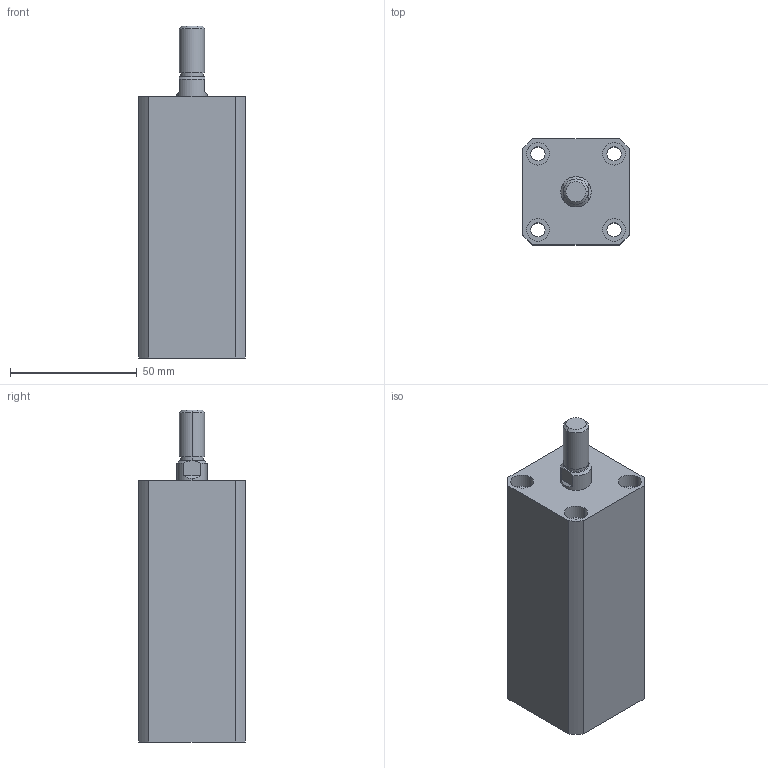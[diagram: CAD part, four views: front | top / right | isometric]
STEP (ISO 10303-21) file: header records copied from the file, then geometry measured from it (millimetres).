
FILE_DESCRIPTION (( 'STEP AP203' ), '1' );
FILE_NAME ('HTB-SDMB20-60W.STEP', '2019-10-08T11:58:44', ( '微软用户' ), ( '微软中国' ), 'SwSTEP 2.0', 'SolidWorks 2012', '' );
FILE_SCHEMA (( 'CONFIG_CONTROL_DESIGN' ));
Length unit declared in the file: millimetre
Products named in the file (3): HTB-SDMB20-60掛极; HTB-SDMB20-60W活塞杆; HTB-SDMB20-60W
Assembly tree (2 placements, depth 2):
  HTB-SDMB20-60W
    HTB-SDMB20-60掛极
    HTB-SDMB20-60W活塞杆
Bounding box: 42 x 42 x 131 mm (x, y, z)
Volume: 156765.3 mm3; surface area: 38856.7 mm2
Topology: 2 solids, 2 shells, 140 faces, 332 edges, 218 vertices
Faces by surface type: plane 66, cylinder 48, bspline 16, torus 6, cone 4
Entity records: 5129 total; most frequent: CARTESIAN_POINT 1587, ORIENTED_EDGE 664, DIRECTION 662, EDGE_CURVE 332, AXIS2_PLACEMENT_3D 241, VERTEX_POINT 218, VECTOR 180, LINE 180
